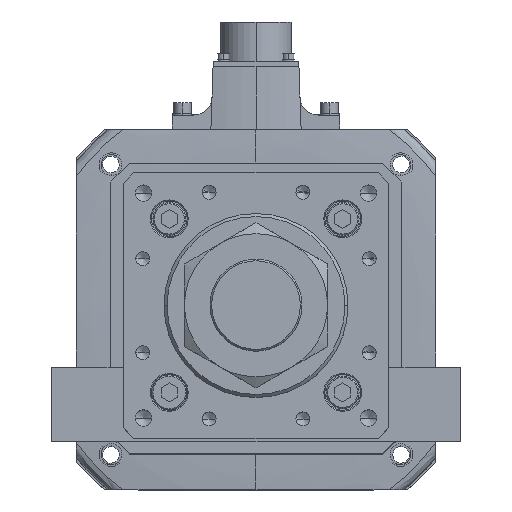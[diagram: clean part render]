
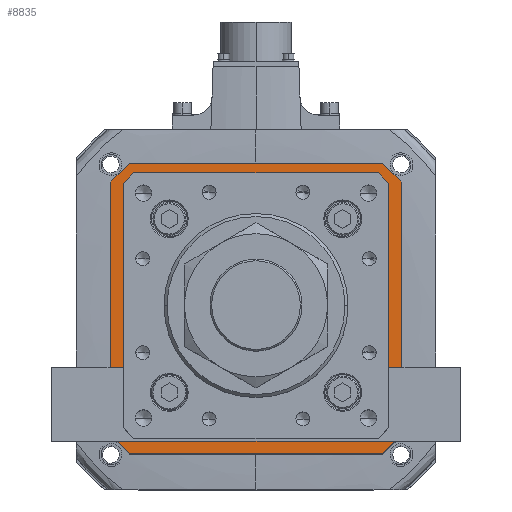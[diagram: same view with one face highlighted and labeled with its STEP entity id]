
A CAD part, top view. The second image highlights one B-rep face of the part: STEP entity #8835.
In plain terms, the highlighted planar face has unit normal (0, 0, 1).
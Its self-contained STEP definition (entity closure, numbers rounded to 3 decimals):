
#493 = CARTESIAN_POINT ( 'NONE',  ( 71., 62., -142. ) ) ;
#1084 = VERTEX_POINT ( 'NONE', #14321 ) ;
#1223 = DIRECTION ( 'NONE',  ( 0., 1., 0. ) ) ;
#1335 = ORIENTED_EDGE ( 'NONE', *, *, #9993, .T. ) ;
#1640 = EDGE_CURVE ( 'NONE', #19676, #13568, #27181, .T. ) ;
#1655 = ORIENTED_EDGE ( 'NONE', *, *, #5758, .T. ) ;
#1987 = FACE_BOUND ( 'NONE', #51002, .T. ) ;
#2000 = CARTESIAN_POINT ( 'NONE',  ( 62., 71., -142. ) ) ;
#2168 = LINE ( 'NONE', #29815, #35219 ) ;
#2186 = CARTESIAN_POINT ( 'NONE',  ( 60.896, -60.896, -142. ) ) ;
#2570 = ORIENTED_EDGE ( 'NONE', *, *, #1640, .T. ) ;
#2792 = LINE ( 'NONE', #48331, #10891 ) ;
#3256 = VECTOR ( 'NONE', #5806, 1000. ) ;
#4811 = EDGE_CURVE ( 'NONE', #42421, #37024, #12727, .T. ) ;
#5189 = VERTEX_POINT ( 'NONE', #14496 ) ;
#5758 = EDGE_CURVE ( 'NONE', #48075, #9824, #11398, .T. ) ;
#5806 = DIRECTION ( 'NONE',  ( -0.707, -0.707, 0. ) ) ;
#5809 = DIRECTION ( 'NONE',  ( 0.707, -0.707, 0. ) ) ;
#5817 = LINE ( 'NONE', #40970, #50308 ) ;
#7205 = ORIENTED_EDGE ( 'NONE', *, *, #30786, .F. ) ;
#7222 = EDGE_CURVE ( 'NONE', #36678, #19676, #5817, .T. ) ;
#7502 = VECTOR ( 'NONE', #23678, 1000. ) ;
#8119 = CARTESIAN_POINT ( 'NONE',  ( -62., 71., -142. ) ) ;
#8123 = DIRECTION ( 'NONE',  ( 0., 0., 1. ) ) ;
#8161 = EDGE_CURVE ( 'NONE', #5189, #36853, #49899, .T. ) ;
#8835 = ADVANCED_FACE ( 'NONE', ( #1987, #21594 ), #38796, .T. ) ;
#9824 = VERTEX_POINT ( 'NONE', #11989 ) ;
#9993 = EDGE_CURVE ( 'NONE', #54451, #36678, #14020, .T. ) ;
#10114 = CARTESIAN_POINT ( 'NONE',  ( 63., -58.793, -142. ) ) ;
#10873 = ORIENTED_EDGE ( 'NONE', *, *, #8161, .F. ) ;
#10891 = VECTOR ( 'NONE', #1223, 1000. ) ;
#11398 = LINE ( 'NONE', #2186, #3256 ) ;
#11989 = CARTESIAN_POINT ( 'NONE',  ( 58.793, -63., -142. ) ) ;
#12076 = DIRECTION ( 'NONE',  ( 0.707, 0.707, 0. ) ) ;
#12727 = LINE ( 'NONE', #37289, #28248 ) ;
#13079 = DIRECTION ( 'NONE',  ( -1., 0., 0. ) ) ;
#13568 = VERTEX_POINT ( 'NONE', #29746 ) ;
#14020 = LINE ( 'NONE', #39440, #30889 ) ;
#14321 = CARTESIAN_POINT ( 'NONE',  ( -62., 71., -142. ) ) ;
#14496 = CARTESIAN_POINT ( 'NONE',  ( -71., -62., -142. ) ) ;
#15211 = VECTOR ( 'NONE', #44743, 1000. ) ;
#15796 = DIRECTION ( 'NONE',  ( 1., 0., 0. ) ) ;
#15860 = CARTESIAN_POINT ( 'NONE',  ( -58.793, -63., -142. ) ) ;
#16971 = EDGE_LOOP ( 'NONE', ( #26843, #24012, #10873, #55084, #20287, #53142, #33678, #7205 ) ) ;
#18194 = VECTOR ( 'NONE', #12076, 1000. ) ;
#18565 = AXIS2_PLACEMENT_3D ( 'NONE', #38431, #8123, #42744 ) ;
#18866 = VECTOR ( 'NONE', #40217, 1000. ) ;
#19676 = VERTEX_POINT ( 'NONE', #26113 ) ;
#20287 = ORIENTED_EDGE ( 'NONE', *, *, #4811, .F. ) ;
#20335 = CARTESIAN_POINT ( 'NONE',  ( -62., -71., -142. ) ) ;
#21040 = VECTOR ( 'NONE', #15796, 1000. ) ;
#21583 = VERTEX_POINT ( 'NONE', #49365 ) ;
#21594 = FACE_OUTER_BOUND ( 'NONE', #16971, .T. ) ;
#22472 = VECTOR ( 'NONE', #5809, 1000. ) ;
#22604 = CARTESIAN_POINT ( 'NONE',  ( 0., -63., -142. ) ) ;
#23678 = DIRECTION ( 'NONE',  ( 0., 1., 0. ) ) ;
#23987 = ORIENTED_EDGE ( 'NONE', *, *, #40662, .T. ) ;
#24012 = ORIENTED_EDGE ( 'NONE', *, *, #34086, .F. ) ;
#24371 = CARTESIAN_POINT ( 'NONE',  ( 71., -62., -142. ) ) ;
#24440 = LINE ( 'NONE', #2000, #21040 ) ;
#24658 = VERTEX_POINT ( 'NONE', #42020 ) ;
#25739 = ORIENTED_EDGE ( 'NONE', *, *, #38794, .T. ) ;
#26113 = CARTESIAN_POINT ( 'NONE',  ( 58.793, 63., -142. ) ) ;
#26202 = CARTESIAN_POINT ( 'NONE',  ( 60.896, 60.896, -142. ) ) ;
#26843 = ORIENTED_EDGE ( 'NONE', *, *, #49210, .F. ) ;
#26871 = DIRECTION ( 'NONE',  ( 0., -1., 0. ) ) ;
#27181 = LINE ( 'NONE', #26202, #22472 ) ;
#27471 = CARTESIAN_POINT ( 'NONE',  ( 63., 0., -142. ) ) ;
#27537 = CARTESIAN_POINT ( 'NONE',  ( 62., 71., -142. ) ) ;
#27762 = CARTESIAN_POINT ( 'NONE',  ( 62., -71., -142. ) ) ;
#27835 = VECTOR ( 'NONE', #32624, 1000. ) ;
#27963 = ORIENTED_EDGE ( 'NONE', *, *, #32542, .T. ) ;
#28248 = VECTOR ( 'NONE', #13079, 1000. ) ;
#29635 = DIRECTION ( 'NONE',  ( -0.707, 0.707, 0. ) ) ;
#29638 = DIRECTION ( 'NONE',  ( -0.707, 0.707, 0. ) ) ;
#29725 = EDGE_CURVE ( 'NONE', #24658, #21583, #30223, .T. ) ;
#29746 = CARTESIAN_POINT ( 'NONE',  ( 63., 58.793, -142. ) ) ;
#29815 = CARTESIAN_POINT ( 'NONE',  ( -60.896, -60.896, -142. ) ) ;
#30223 = LINE ( 'NONE', #53198, #46350 ) ;
#30350 = VERTEX_POINT ( 'NONE', #27537 ) ;
#30786 = EDGE_CURVE ( 'NONE', #30350, #24658, #52320, .T. ) ;
#30889 = VECTOR ( 'NONE', #53002, 1000. ) ;
#31223 = CARTESIAN_POINT ( 'NONE',  ( -63., 58.793, -142. ) ) ;
#31794 = DIRECTION ( 'NONE',  ( -1., 0., 0. ) ) ;
#31989 = VECTOR ( 'NONE', #31794, 1000. ) ;
#32529 = VERTEX_POINT ( 'NONE', #15860 ) ;
#32542 = EDGE_CURVE ( 'NONE', #32529, #48755, #2168, .T. ) ;
#32624 = DIRECTION ( 'NONE',  ( -0.707, -0.707, 0. ) ) ;
#33678 = ORIENTED_EDGE ( 'NONE', *, *, #29725, .F. ) ;
#34086 = EDGE_CURVE ( 'NONE', #36853, #1084, #36393, .T. ) ;
#34693 = LINE ( 'NONE', #22604, #31989 ) ;
#35219 = VECTOR ( 'NONE', #29638, 1000. ) ;
#36194 = VECTOR ( 'NONE', #29635, 1000. ) ;
#36393 = LINE ( 'NONE', #8119, #18194 ) ;
#36678 = VERTEX_POINT ( 'NONE', #46552 ) ;
#36853 = VERTEX_POINT ( 'NONE', #39206 ) ;
#37024 = VERTEX_POINT ( 'NONE', #20335 ) ;
#37162 = EDGE_CURVE ( 'NONE', #37024, #5189, #47654, .T. ) ;
#37289 = CARTESIAN_POINT ( 'NONE',  ( 62., -71., -142. ) ) ;
#38431 = CARTESIAN_POINT ( 'NONE',  ( 0., 0., -142. ) ) ;
#38432 = LINE ( 'NONE', #27471, #18866 ) ;
#38794 = EDGE_CURVE ( 'NONE', #9824, #32529, #34693, .T. ) ;
#38796 = PLANE ( 'NONE',  #18565 ) ;
#39206 = CARTESIAN_POINT ( 'NONE',  ( -71., 62., -142. ) ) ;
#39440 = CARTESIAN_POINT ( 'NONE',  ( -60.896, 60.896, -142. ) ) ;
#40217 = DIRECTION ( 'NONE',  ( 0., -1., 0. ) ) ;
#40490 = CARTESIAN_POINT ( 'NONE',  ( -63., -58.793, -142. ) ) ;
#40662 = EDGE_CURVE ( 'NONE', #13568, #48075, #38432, .T. ) ;
#40970 = CARTESIAN_POINT ( 'NONE',  ( 0., 63., -142. ) ) ;
#41958 = LINE ( 'NONE', #24371, #27835 ) ;
#42020 = CARTESIAN_POINT ( 'NONE',  ( 71., 62., -142. ) ) ;
#42421 = VERTEX_POINT ( 'NONE', #27762 ) ;
#42744 = DIRECTION ( 'NONE',  ( 1., 0., 0. ) ) ;
#43873 = ORIENTED_EDGE ( 'NONE', *, *, #7222, .T. ) ;
#44743 = DIRECTION ( 'NONE',  ( 0.707, -0.707, 0. ) ) ;
#46350 = VECTOR ( 'NONE', #26871, 1000. ) ;
#46552 = CARTESIAN_POINT ( 'NONE',  ( -58.793, 63., -142. ) ) ;
#47234 = EDGE_CURVE ( 'NONE', #21583, #42421, #41958, .T. ) ;
#47654 = LINE ( 'NONE', #55782, #36194 ) ;
#48075 = VERTEX_POINT ( 'NONE', #10114 ) ;
#48318 = ORIENTED_EDGE ( 'NONE', *, *, #49500, .T. ) ;
#48331 = CARTESIAN_POINT ( 'NONE',  ( -63., 0., -142. ) ) ;
#48755 = VERTEX_POINT ( 'NONE', #40490 ) ;
#49210 = EDGE_CURVE ( 'NONE', #1084, #30350, #24440, .T. ) ;
#49365 = CARTESIAN_POINT ( 'NONE',  ( 71., -62., -142. ) ) ;
#49500 = EDGE_CURVE ( 'NONE', #48755, #54451, #2792, .T. ) ;
#49899 = LINE ( 'NONE', #53964, #7502 ) ;
#50228 = DIRECTION ( 'NONE',  ( 1., 0., 0. ) ) ;
#50308 = VECTOR ( 'NONE', #50228, 1000. ) ;
#51002 = EDGE_LOOP ( 'NONE', ( #23987, #1655, #25739, #27963, #48318, #1335, #43873, #2570 ) ) ;
#52320 = LINE ( 'NONE', #493, #15211 ) ;
#53002 = DIRECTION ( 'NONE',  ( 0.707, 0.707, 0. ) ) ;
#53142 = ORIENTED_EDGE ( 'NONE', *, *, #47234, .F. ) ;
#53198 = CARTESIAN_POINT ( 'NONE',  ( 71., 62., -142. ) ) ;
#53964 = CARTESIAN_POINT ( 'NONE',  ( -71., 62., -142. ) ) ;
#54451 = VERTEX_POINT ( 'NONE', #31223 ) ;
#55084 = ORIENTED_EDGE ( 'NONE', *, *, #37162, .F. ) ;
#55782 = CARTESIAN_POINT ( 'NONE',  ( -62., -71., -142. ) ) ;
